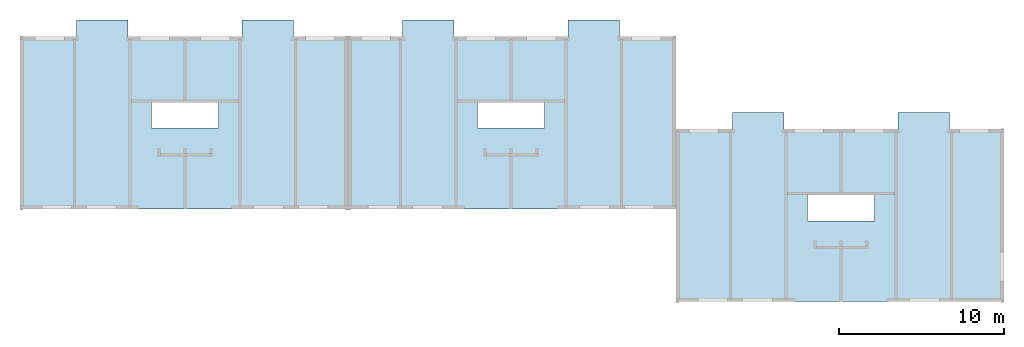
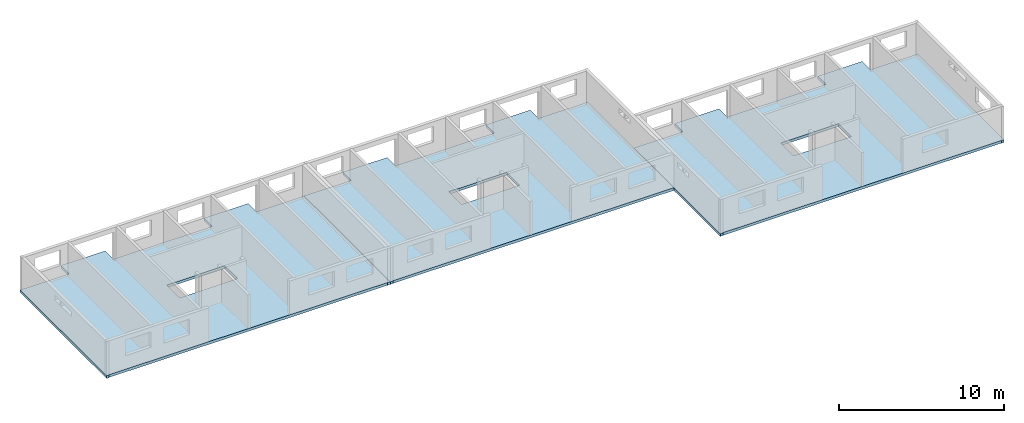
# One storey, part 1 of 9: 3 slabs, 3 openings.
"""IFC2X3 building model written with IfcOpenShell, lengths in millimetres."""

from ifc_helpers import new_model, entity, si_unit, converted_unit, frame, frame_2d, origin, origin_with_axes, place, context, subcontext, project, spatial, polyline, rectangle, outline, extrude, material, layer, layer_set, layer_usage, element, save


model = new_model("IFC2X3")

# Units and contexts
model_context = context("Model", 3, precision=1e-05, world=origin())
plan_context = context("Plan", 3, precision=1e-05, world=origin())
body_context = subcontext(model_context, "Body", "Model", "MODEL_VIEW")
ifc_project = project(units=[si_unit("LENGTHUNIT", "METRE", prefix="MILLI"), converted_unit("PLANEANGLEUNIT", "DEGREE", entity("IfcPlaneAngleMeasure", 0.0174532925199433), si_unit("PLANEANGLEUNIT", "RADIAN"), dimensions=[0, 0, 0, 0, 0, 0, 0]), si_unit("AREAUNIT", "SQUARE_METRE"), si_unit("VOLUMEUNIT", "CUBIC_METRE")], contexts=[model_context, plan_context])

# Building, storey
building_placement = place(None, origin())
building = spatial("IfcBuilding", under=ifc_project, at=building_placement, Name="Bâtiment", CompositionType="ELEMENT")
storey_placement = place(building_placement, frame((0.0, 0.0, 5400.0), z_axis=(0.0, 0.0, 1.0), x_axis=(1.0, 0.0, 0.0)))
storey = spatial("IfcBuildingStorey", under=building, at=storey_placement, Name="r+2", CompositionType="ELEMENT", Elevation=5400.0)

# Slab, opening
ifc_material_1 = material()
ifc_layer_1 = layer(ifc_material_1, 200.0)
ifc_layer_set_1 = layer_set([ifc_layer_1])
ifc_layer_usage_1 = layer_usage(ifc_layer_set_1, "AXIS3", "POSITIVE", 0.0)
slab_1_placement = place(storey_placement, frame((-5.561300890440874e-12, -3.306546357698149e-14, -200.0), z_axis=(0.0, 0.0, 1.0), x_axis=(1.0, 0.0, 0.0)))
slab_1 = element("IfcSlab", 1, at=slab_1_placement, inside=storey, material=ifc_layer_usage_1, PredefinedType="FLOOR", context=body_context, shape_type="SweptSolid", body=[
    extrude(outline(polyline([(0.0, 3.306546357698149e-14), (180.0, 0.0), (180.0, 20.0775509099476), (6925.000000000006, 20.07755090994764), (13045.00000000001, 20.16279356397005), (19669.99999999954, 20.16279356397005), (19669.99999999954, 1.852054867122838e-12), (19849.99999999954, 1.852054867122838e-12), (19849.99999999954, 10490.07776548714), (19669.99999999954, 10490.07776548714), (19669.99999999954, 10470.07776548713), (16539.99999105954, 10470.07768919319), (16539.59862885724, 11470.07760604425), (13439.59868548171, 11470.07760604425), (13440.0, 10470.07775475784), (6530.00000000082, 10470.07768919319), (6530.000094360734, 11470.07760604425), (3430.000000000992, 11470.07775475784), (3430.000000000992, 10470.07776548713), (180.0000000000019, 10470.07776548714), (180.0000000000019, 10490.07776548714), (1.924546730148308e-12, 10490.07776548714), (0.0, 3.306546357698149e-14)])), origin_with_axes(), (0.0, 0.0, 1.0), 200.0),
])
opening_1_placement = place(slab_1_placement, frame((7959.999453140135, 4920.077765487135, 0.0), z_axis=(0.0, 0.0, 1.0), x_axis=(1.0, 0.0, 0.0)))
element("IfcOpeningElement", 2, at=opening_1_placement, cuts=slab_1, Name="Trémie dans dalle", ObjectType="Opening", context=body_context, shape_type="SweptSolid", body=[
    extrude(rectangle(XDim=4050.0, YDim=1550.0, at=frame_2d((2025.0, 775.0), x_axis=(1.0, 0.0))), origin_with_axes(), (0.0, 0.0, 1.0), 200.0),
])

ifc_material_2 = material()
ifc_layer_2 = layer(ifc_material_2, 200.0)
ifc_layer_set_2 = layer_set([ifc_layer_2])
ifc_layer_usage_2 = layer_usage(ifc_layer_set_2, "AXIS3", "POSITIVE", 0.0)
slab_2_placement = place(storey_placement, frame((39699.99999999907, -5599.999999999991, -200.0), z_axis=(0.0, 0.0, 1.0), x_axis=(1.0, 0.0, 0.0)))
slab_2 = element("IfcSlab", 3, at=slab_2_placement, inside=storey, material=ifc_layer_usage_2, PredefinedType="FLOOR", context=body_context, shape_type="SweptSolid", body=[
    extrude(outline(polyline([(0.0, 0.0), (180.0, 0.0), (180.0, 20.0775509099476), (6925.000000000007, 20.0775509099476), (13045.00000000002, 20.1627935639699), (19669.99999999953, 20.1627935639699), (19669.99999999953, 1.818989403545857e-12), (19849.99999999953, 1.818989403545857e-12), (19849.99999999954, 10490.07776548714), (19669.99999999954, 10490.07776548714), (19669.99999999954, 10470.07776548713), (16539.99999105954, 10470.07768919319), (16539.59862885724, 11470.07760604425), (13439.59868548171, 11470.07760604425), (13440.00000000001, 10470.07775475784), (6530.000000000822, 10470.07768919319), (6530.000094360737, 11470.07760604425), (3430.000000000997, 11470.07775475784), (3430.000000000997, 10470.07776548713), (180.0, 10470.07776548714), (7.275957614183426e-12, 10470.07776548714), (0.0, 0.0)])), origin_with_axes(), (0.0, 0.0, 1.0), 200.0),
])
opening_2_placement = place(slab_2_placement, frame((7959.999453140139, 4920.077765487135, 0.0), z_axis=(0.0, 0.0, 1.0), x_axis=(1.0, 0.0, 0.0)))
element("IfcOpeningElement", 4, at=opening_2_placement, cuts=slab_2, Name="Trémie dans dalle", ObjectType="Opening", context=body_context, shape_type="SweptSolid", body=[
    extrude(rectangle(XDim=4050.0, YDim=1550.0, at=frame_2d((2025.0, 775.0), x_axis=(1.0, 0.0))), origin_with_axes(), (0.0, 0.0, 1.0), 200.0),
])

ifc_material_3 = material()
ifc_layer_3 = layer(ifc_material_3, 200.0)
ifc_layer_set_3 = layer_set([ifc_layer_3])
ifc_layer_usage_3 = layer_usage(ifc_layer_set_3, "AXIS3", "POSITIVE", 0.0)
slab_3_placement = place(storey_placement, frame((19849.99999999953, 1.818989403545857e-12, -200.0), z_axis=(0.0, 0.0, 1.0), x_axis=(1.0, 0.0, 0.0)))
slab_3 = element("IfcSlab", 5, at=slab_3_placement, inside=storey, material=ifc_layer_usage_3, PredefinedType="FLOOR", context=body_context, shape_type="SweptSolid", body=[
    extrude(outline(polyline([(0.0, 0.0), (180.0, 0.0), (180.0, 20.16279356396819), (6805.000546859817, 20.16279356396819), (12924.99999999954, 20.16279356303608), (19849.99999999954, 20.07755090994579), (19849.99999999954, 10490.07776548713), (19669.99999999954, 10490.07776548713), (19669.99999999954, 10470.07776548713), (16419.99999999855, 10470.07776548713), (16419.99999999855, 11470.07775475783), (13319.99990563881, 11470.07760604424), (13319.99999999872, 10470.07768919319), (6409.999999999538, 10470.07775475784), (6410.401314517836, 11470.07760604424), (3310.401371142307, 11470.07760604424), (3310.000008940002, 10470.07768919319), (180.0000000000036, 10470.07776548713), (180.0000000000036, 10490.07776548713), (3.637978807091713e-12, 10490.07776548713), (0.0, 0.0)])), origin_with_axes(), (0.0, 0.0, 1.0), 200.0),
])
opening_3_placement = place(slab_3_placement, frame((7840.000546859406, 4920.077765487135, 0.0), z_axis=(0.0, 0.0, 1.0), x_axis=(1.0, 0.0, 0.0)))
element("IfcOpeningElement", 6, at=opening_3_placement, cuts=slab_3, Name="Trémie dans dalle", ObjectType="Opening", context=body_context, shape_type="SweptSolid", body=[
    extrude(rectangle(XDim=4050.0, YDim=1550.0, at=frame_2d((2025.0, 775.0), x_axis=(1.0, 0.0))), origin_with_axes(), (0.0, 0.0, 1.0), 200.0),
])

save(model, "model.ifc")
